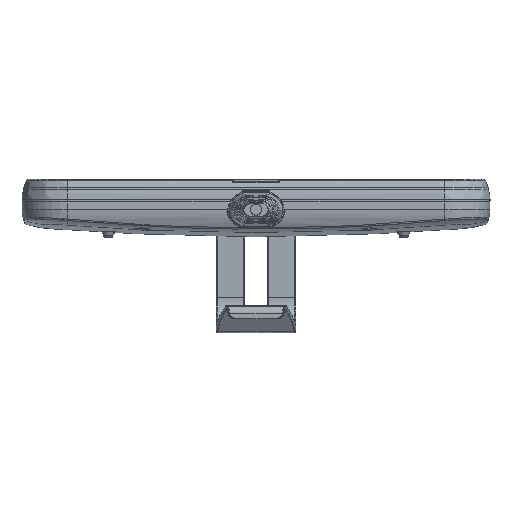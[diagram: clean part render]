
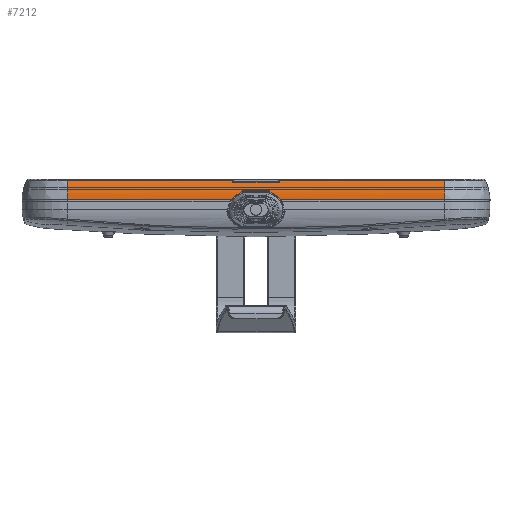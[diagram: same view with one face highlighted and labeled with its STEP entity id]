
A CAD part, top view. The second image highlights one B-rep face of the part: STEP entity #7212.
In plain terms, the highlighted cylindrical face has radius 18.62 mm (diameter 37.24 mm), a partial arc.
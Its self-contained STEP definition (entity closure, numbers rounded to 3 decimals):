
#58=CARTESIAN_POINT('',(10.596,61.97,-8.454));
#135=CARTESIAN_POINT('',(-10.596,61.97,-8.454));
#311=CARTESIAN_POINT('',(10.596,61.97,-8.454));
#312=CARTESIAN_POINT('',(10.564,62.012,-8.372));
#313=CARTESIAN_POINT('',(10.501,62.094,-8.208));
#314=CARTESIAN_POINT('',(10.408,62.214,-7.959));
#315=CARTESIAN_POINT('',(10.348,62.292,-7.791));
#316=CARTESIAN_POINT('',(10.319,62.33,-7.707));
#325=DIRECTION('',(-1.,0.,0.));
#326=VECTOR('',#325,10.347);
#327=CARTESIAN_POINT('',(5.174,63.676,-3.458));
#328=LINE('',#327,#326);
#329=DIRECTION('',(-1.,0.,0.));
#330=VECTOR('',#329,72.32);
#331=CARTESIAN_POINT('',(-10.68,64.,0.));
#332=LINE('',#331,#330);
#333=DIRECTION('',(1.,0.,0.));
#334=VECTOR('',#333,72.404);
#335=CARTESIAN_POINT('',(-83.,61.97,-8.454));
#336=LINE('',#335,#334);
#337=DIRECTION('',(1.,0.,0.));
#338=VECTOR('',#337,72.404);
#339=CARTESIAN_POINT('',(10.596,61.97,-8.454));
#340=LINE('',#339,#338);
#341=DIRECTION('',(-1.,0.,0.));
#342=VECTOR('',#341,72.32);
#343=CARTESIAN_POINT('',(83.,64.,0.));
#344=LINE('',#343,#342);
#391=CARTESIAN_POINT('',(5.174,63.676,-3.458));
#392=CARTESIAN_POINT('',(5.281,63.676,-3.457));
#393=CARTESIAN_POINT('',(5.494,63.679,-3.443));
#394=CARTESIAN_POINT('',(5.81,63.69,-3.381));
#395=CARTESIAN_POINT('',(6.012,63.703,-3.313));
#396=CARTESIAN_POINT('',(6.111,63.71,-3.272));
#402=CARTESIAN_POINT('',(6.111,63.71,-3.272));
#403=CARTESIAN_POINT('',(6.793,63.76,-2.992));
#404=CARTESIAN_POINT('',(8.033,63.86,-2.36));
#405=CARTESIAN_POINT('',(9.557,63.971,-1.24));
#406=CARTESIAN_POINT('',(10.34,64.,-0.424));
#407=CARTESIAN_POINT('',(10.68,64.,0.));
#453=CARTESIAN_POINT('',(83.,45.38,
0.));
#454=DIRECTION('',(-1.,0.,0.));
#455=DIRECTION('',(0.,1.,0.));
#456=AXIS2_PLACEMENT_3D('',#453,#454,#455);
#532=CARTESIAN_POINT('',(-83.,45.38,
0.));
#533=DIRECTION('',(1.,0.,0.));
#534=DIRECTION('',(0.,0.891,-0.454));
#535=AXIS2_PLACEMENT_3D('',#532,#533,#534);
#541=CARTESIAN_POINT('',(-10.68,64.,0.));
#542=CARTESIAN_POINT('',(-10.334,64.,-0.431));
#543=CARTESIAN_POINT('',(-9.54,63.97,-1.255));
#544=CARTESIAN_POINT('',(-8.016,63.858,-2.37));
#545=CARTESIAN_POINT('',(-6.785,63.76,-2.996));
#546=CARTESIAN_POINT('',(-6.11,63.71,-3.272));
#552=CARTESIAN_POINT('',(-6.11,63.71,-3.272));
#553=CARTESIAN_POINT('',(-6.012,63.703,-3.313));
#554=CARTESIAN_POINT('',(-5.81,63.69,-3.381));
#555=CARTESIAN_POINT('',(-5.495,63.679,-3.443));
#556=CARTESIAN_POINT('',(-5.281,63.676,-3.457));
#557=CARTESIAN_POINT('',(-5.174,63.676,-3.458));
#3124=DIRECTION('',(-1.,0.,0.));
#3125=VECTOR('',#3124,20.638);
#3126=CARTESIAN_POINT('',(10.319,62.33,-7.707));
#3127=LINE('',#3126,#3125);
#3128=CARTESIAN_POINT('',(-10.319,62.33,
-7.707));
#3129=CARTESIAN_POINT('',(-10.348,62.292,
-7.791));
#3130=CARTESIAN_POINT('',(-10.408,62.214,
-7.959));
#3131=CARTESIAN_POINT('',(-10.501,62.094,
-8.208));
#3132=CARTESIAN_POINT('',(-10.564,62.012,
-8.372));
#3133=CARTESIAN_POINT('',(-10.596,61.97,
-8.454));
#4971=VERTEX_POINT('',#58);
#4976=CARTESIAN_POINT('',(83.,61.97,-8.454));
#4977=VERTEX_POINT('',#4976);
#4990=CARTESIAN_POINT('',(-83.,61.97,-8.454));
#4991=VERTEX_POINT('',#4990);
#4992=VERTEX_POINT('',#135);
#5025=VERTEX_POINT('',#316);
#5028=CARTESIAN_POINT('',(5.174,63.676,-3.458));
#5029=CARTESIAN_POINT('',(-5.174,63.676,
-3.458));
#5030=VERTEX_POINT('',#5028);
#5031=VERTEX_POINT('',#5029);
#5032=VERTEX_POINT('',#552);
#5033=VERTEX_POINT('',#541);
#5034=CARTESIAN_POINT('',(-83.,64.,0.));
#5035=VERTEX_POINT('',#5034);
#5036=VERTEX_POINT('',#3128);
#5037=CARTESIAN_POINT('',(83.,64.,0.));
#5038=VERTEX_POINT('',#5037);
#5039=CARTESIAN_POINT('',(10.68,64.,0.));
#5040=VERTEX_POINT('',#5039);
#5041=VERTEX_POINT('',#402);
#7180=CARTESIAN_POINT('',(-83.,45.38,0.));
#7181=DIRECTION('',(1.,0.,0.));
#7182=DIRECTION('',(0.,0.,-1.));
#7183=AXIS2_PLACEMENT_3D('',#7180,#7181,#7182);
#7184=CYLINDRICAL_SURFACE('',#7183,18.62);
#7186=ORIENTED_EDGE('',*,*,#7185,.T.);
#7188=ORIENTED_EDGE('',*,*,#7187,.F.);
#7190=ORIENTED_EDGE('',*,*,#7189,.F.);
#7192=ORIENTED_EDGE('',*,*,#7191,.T.);
#7194=ORIENTED_EDGE('',*,*,#7193,.F.);
#7195=ORIENTED_EDGE('',*,*,#6718,.T.);
#7197=ORIENTED_EDGE('',*,*,#7196,.F.);
#7199=ORIENTED_EDGE('',*,*,#7198,.F.);
#7200=ORIENTED_EDGE('',*,*,#7169,.F.);
#7201=ORIENTED_EDGE('',*,*,#6608,.T.);
#7203=ORIENTED_EDGE('',*,*,#7202,.F.);
#7205=ORIENTED_EDGE('',*,*,#7204,.T.);
#7207=ORIENTED_EDGE('',*,*,#7206,.F.);
#7209=ORIENTED_EDGE('',*,*,#7208,.F.);
#7210=EDGE_LOOP('',(#7186,#7188,#7190,#7192,#7194,#7195,#7197,#7199,#7200,#7201,
#7203,#7205,#7207,#7209));
#7211=FACE_OUTER_BOUND('',#7210,.F.);
#7212=ADVANCED_FACE('',(#7211),#7184,.T.);
#317=B_SPLINE_CURVE_WITH_KNOTS('',3,(#311,#312,#313,#314,#315,#316),
.UNSPECIFIED.,.F.,.F.,(4,1,1,4),(0.,0.333,0.667,1.),
.UNSPECIFIED.);
#397=B_SPLINE_CURVE_WITH_KNOTS('',3,(#391,#392,#393,#394,#395,#396),
.UNSPECIFIED.,.F.,.F.,(4,1,1,4),(0.,0.333,0.667,1.),
.UNSPECIFIED.);
#408=B_SPLINE_CURVE_WITH_KNOTS('',3,(#402,#403,#404,#405,#406,#407),
.UNSPECIFIED.,.F.,.F.,(4,1,1,4),(0.,0.333,0.667,1.),
.UNSPECIFIED.);
#457=CIRCLE('',#456,18.62);
#536=CIRCLE('',#535,18.62);
#547=B_SPLINE_CURVE_WITH_KNOTS('',3,(#541,#542,#543,#544,#545,#546),
.UNSPECIFIED.,.F.,.F.,(4,1,1,4),(0.,0.333,0.667,1.),
.UNSPECIFIED.);
#558=B_SPLINE_CURVE_WITH_KNOTS('',3,(#552,#553,#554,#555,#556,#557),
.UNSPECIFIED.,.F.,.F.,(4,1,1,4),(0.,0.333,0.667,1.),
.UNSPECIFIED.);
#3134=B_SPLINE_CURVE_WITH_KNOTS('',3,(#3128,#3129,#3130,#3131,#3132,#3133),
.UNSPECIFIED.,.F.,.F.,(4,1,1,4),(0.,0.333,0.667,1.),
.UNSPECIFIED.);
#6608=EDGE_CURVE('',#4971,#4977,#340,.T.);
#6718=EDGE_CURVE('',#4991,#4992,#336,.T.);
#7169=EDGE_CURVE('',#4971,#5025,#317,.T.);
#7185=EDGE_CURVE('',#5030,#5031,#328,.T.);
#7187=EDGE_CURVE('',#5032,#5031,#558,.T.);
#7189=EDGE_CURVE('',#5033,#5032,#547,.T.);
#7191=EDGE_CURVE('',#5033,#5035,#332,.T.);
#7193=EDGE_CURVE('',#4991,#5035,#536,.T.);
#7196=EDGE_CURVE('',#5036,#4992,#3134,.T.);
#7198=EDGE_CURVE('',#5025,#5036,#3127,.T.);
#7202=EDGE_CURVE('',#5038,#4977,#457,.T.);
#7204=EDGE_CURVE('',#5038,#5040,#344,.T.);
#7206=EDGE_CURVE('',#5041,#5040,#408,.T.);
#7208=EDGE_CURVE('',#5030,#5041,#397,.T.);
